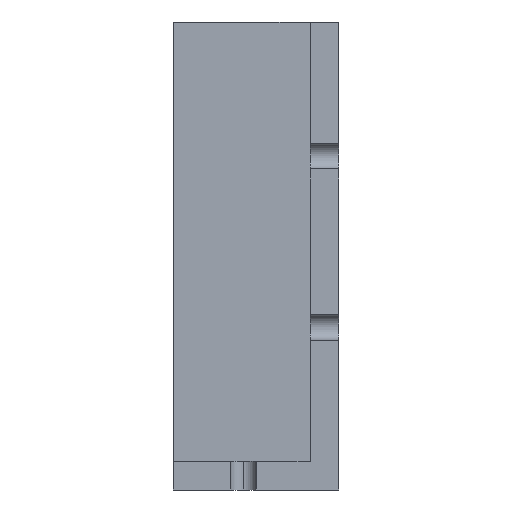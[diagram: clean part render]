
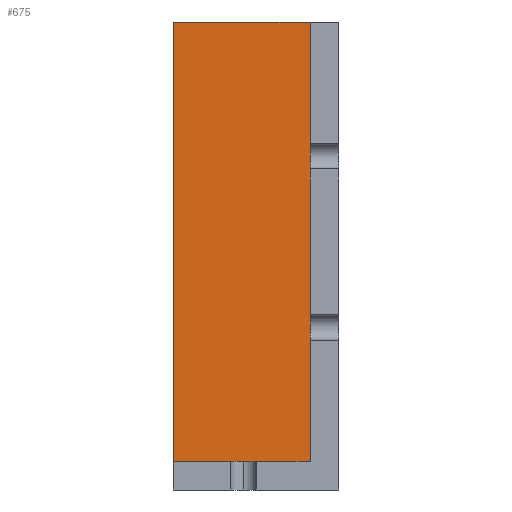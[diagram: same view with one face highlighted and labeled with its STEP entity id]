
A CAD part, left-side view. The second image highlights one B-rep face of the part: STEP entity #675.
In plain terms, the highlighted planar face has unit normal (-1, 0, 0).
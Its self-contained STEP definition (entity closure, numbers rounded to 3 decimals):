
#44 = ORIENTED_EDGE ( 'NONE', *, *, #606, .F. ) ;
#51 = LINE ( 'NONE', #420, #82 ) ;
#82 = VECTOR ( 'NONE', #906, 1000. ) ;
#128 = AXIS2_PLACEMENT_3D ( 'NONE', #704, #678, #990 ) ;
#205 = ORIENTED_EDGE ( 'NONE', *, *, #804, .T. ) ;
#218 = DIRECTION ( 'NONE',  ( 0., 0., 1. ) ) ;
#315 = EDGE_CURVE ( 'NONE', #450, #869, #743, .T. ) ;
#374 = CARTESIAN_POINT ( 'NONE',  ( 7., 5., 0. ) ) ;
#383 = VERTEX_POINT ( 'NONE', #399 ) ;
#399 = CARTESIAN_POINT ( 'NONE',  ( 7., 5., -77. ) ) ;
#419 = DIRECTION ( 'NONE',  ( 0., 1., 0. ) ) ;
#420 = CARTESIAN_POINT ( 'NONE',  ( 7., 5., -77. ) ) ;
#450 = VERTEX_POINT ( 'NONE', #374 ) ;
#585 = PLANE ( 'NONE',  #128 ) ;
#606 = EDGE_CURVE ( 'NONE', #383, #1084, #1013, .T. ) ;
#646 = EDGE_CURVE ( 'NONE', #1084, #869, #698, .T. ) ;
#654 = CARTESIAN_POINT ( 'NONE',  ( 7., 29., -77. ) ) ;
#670 = FACE_OUTER_BOUND ( 'NONE', #791, .T. ) ;
#675 = ADVANCED_FACE ( 'NONE', ( #670 ), #585, .F. ) ;
#678 = DIRECTION ( 'NONE',  ( 1., 0., 0. ) ) ;
#698 = LINE ( 'NONE', #1087, #932 ) ;
#704 = CARTESIAN_POINT ( 'NONE',  ( 7., 29., -77. ) ) ;
#708 = CARTESIAN_POINT ( 'NONE',  ( 7., 29., -77. ) ) ;
#730 = VECTOR ( 'NONE', #419, 1000. ) ;
#743 = LINE ( 'NONE', #1217, #1024 ) ;
#791 = EDGE_LOOP ( 'NONE', ( #891, #836, #44, #205 ) ) ;
#804 = EDGE_CURVE ( 'NONE', #383, #450, #51, .T. ) ;
#836 = ORIENTED_EDGE ( 'NONE', *, *, #646, .F. ) ;
#869 = VERTEX_POINT ( 'NONE', #1166 ) ;
#891 = ORIENTED_EDGE ( 'NONE', *, *, #315, .T. ) ;
#906 = DIRECTION ( 'NONE',  ( 0., 0., 1. ) ) ;
#932 = VECTOR ( 'NONE', #218, 1000. ) ;
#990 = DIRECTION ( 'NONE',  ( 0., 1., 0. ) ) ;
#1013 = LINE ( 'NONE', #708, #730 ) ;
#1024 = VECTOR ( 'NONE', #1035, 1000. ) ;
#1035 = DIRECTION ( 'NONE',  ( 0., 1., 0. ) ) ;
#1084 = VERTEX_POINT ( 'NONE', #654 ) ;
#1087 = CARTESIAN_POINT ( 'NONE',  ( 7., 29., -77. ) ) ;
#1166 = CARTESIAN_POINT ( 'NONE',  ( 7., 29., 0. ) ) ;
#1217 = CARTESIAN_POINT ( 'NONE',  ( 7., 29., 0. ) ) ;
